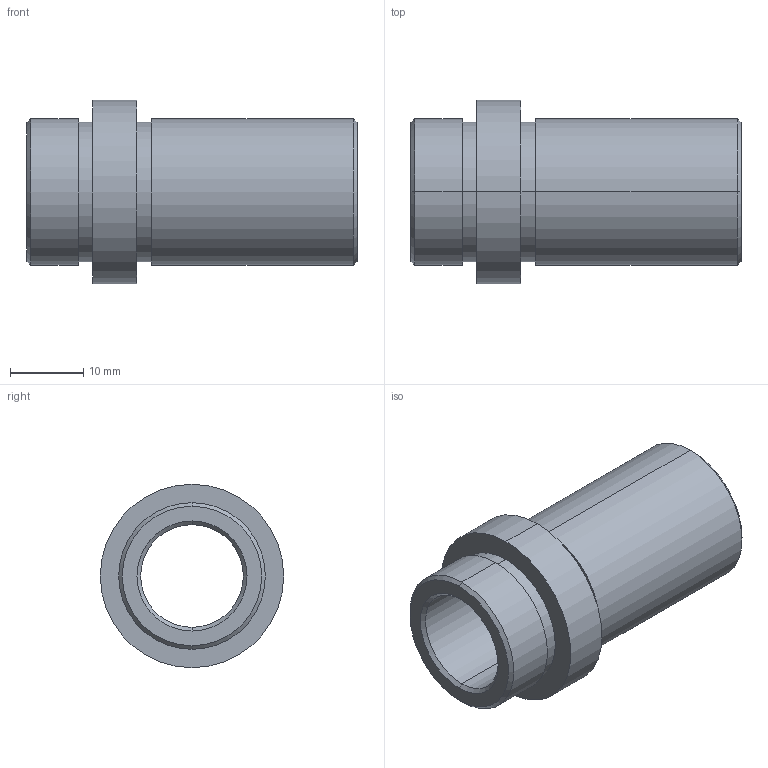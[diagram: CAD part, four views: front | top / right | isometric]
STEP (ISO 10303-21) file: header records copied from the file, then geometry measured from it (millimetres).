
FILE_DESCRIPTION( ( 'STEP AP203' ), '1' );
FILE_NAME( 'D:/Delta 3 D/D21/D21 - 14x36.step', '2002-12-31T22:26:52', ( ' ' ), ( ' ' ), 'XStep 1.0', ' ', ' ' );
FILE_SCHEMA( ( 'CONFIG_CONTROL_DESIGN' ) );
Length unit declared in the file: metre
Products named in the file (1): 1
Bounding box: 45 x 25 x 25 mm (x, y, z)
Volume: 8121 mm3; surface area: 5622.1 mm2
Topology: 1 solids, 1 shells, 26 faces, 52 edges, 32 vertices
Faces by surface type: revolution 20, bspline 6
Entity records: 773 total; most frequent: CARTESIAN_POINT 169, DIRECTION 106, ORIENTED_EDGE 104, EDGE_CURVE 52, AXIS2_PLACEMENT_3D 33, EDGE_LOOP 32, VERTEX_POINT 32, CIRCLE 32
